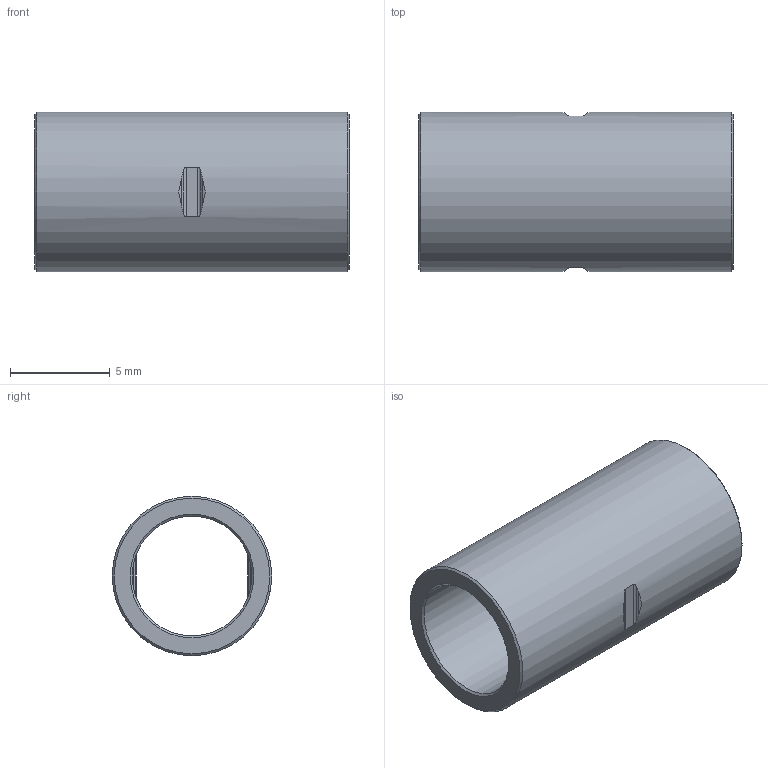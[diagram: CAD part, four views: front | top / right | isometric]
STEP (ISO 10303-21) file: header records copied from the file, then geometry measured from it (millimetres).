
FILE_DESCRIPTION((''),'2;1');
FILE_NAME('G:\SANHA-TERNAT\Technik\Management\Bouwmaten\z-maattekeningen 3D\imate 5000s\15270..._\152706.stp','2009-10-19T09:10:13',('vdvijverd'),(''),'Autodesk Inventor 2009','Autodesk Inventor 2009','');
FILE_SCHEMA(('AUTOMOTIVE_DESIGN { 1 0 10303 214 1 1 1 1 }'));
Length unit declared in the file: millimetre
Products named in the file (1): 152706
Bounding box: 15.75 x 8 x 8 mm (x, y, z)
Volume: 345.8 mm3; surface area: 732.2 mm2
Topology: 1 solids, 1 shells, 36 faces, 96 edges, 64 vertices
Faces by surface type: bspline 14, cylinder 10, plane 8, cone 4
Full cylindrical faces by diameter (mm): 6 x1, 8 x1
Entity records: 1346 total; most frequent: CARTESIAN_POINT 535, ORIENTED_EDGE 176, DIRECTION 126, EDGE_CURVE 88, VERTEX_POINT 64, EDGE_LOOP 48, AXIS2_PLACEMENT_3D 47, FACE_OUTER_BOUND 36
